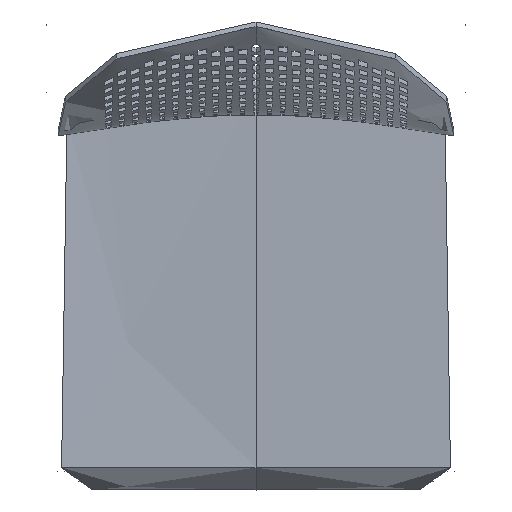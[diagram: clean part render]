
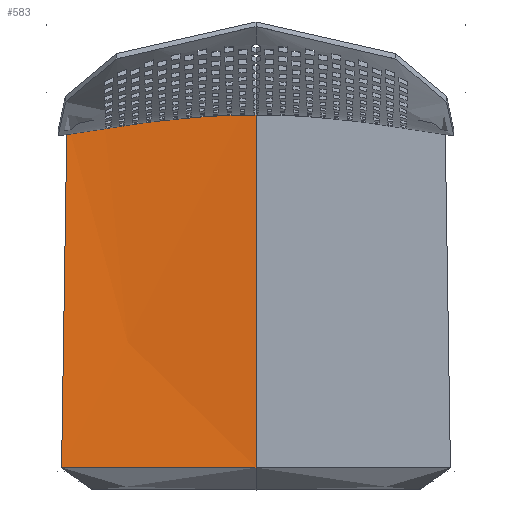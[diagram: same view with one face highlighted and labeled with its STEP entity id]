
A CAD part, top view. The second image highlights one B-rep face of the part: STEP entity #583.
In plain terms, the highlighted free-form (B-spline) face has degree [3, 3] with [4, 6] control points.
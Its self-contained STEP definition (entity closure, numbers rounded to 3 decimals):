
#583=ADVANCED_FACE('',(#1649),#19942,.T.);
#1649=FACE_OUTER_BOUND('',#2715,.T.);
#2715=EDGE_LOOP('',(#4396,#4397,#4398,#4399,#4400));
#4396=ORIENTED_EDGE('',*,*,#10608,.T.);
#4397=ORIENTED_EDGE('',*,*,#10598,.T.);
#4398=ORIENTED_EDGE('',*,*,#10617,.F.);
#4399=ORIENTED_EDGE('',*,*,#10593,.T.);
#4400=ORIENTED_EDGE('',*,*,#10618,.F.);
#10593=EDGE_CURVE('',#16894,#16896,#13811,.T.);
#10598=EDGE_CURVE('',#16899,#16900,#13816,.T.);
#10608=EDGE_CURVE('',#16905,#16899,#13826,.T.);
#10617=EDGE_CURVE('',#16894,#16900,#13835,.T.);
#10618=EDGE_CURVE('',#16905,#16896,#13657,.T.);
#13657=(
BOUNDED_CURVE()
B_SPLINE_CURVE(3,(#33264,#33265,#33266,#33267,#33268,#33269,#33270,#33271,
#33272,#33273,#33274,#33275,#33276,#33277,#33278,#33279,#33280,#33281,#33282,
#33283,#33284,#33285,#33286,#33287,#33288,#33289,#33290,#33291,#33292,#33293,
#33294),.UNSPECIFIED.,.F.,.F.)
B_SPLINE_CURVE_WITH_KNOTS((4,1,1,3,3,1,1,1,3,1,3,3,3,3,4),(2.851,
11.912,18.296,25.391,29.766,33.648,
35.997,37.781,43.025,45.325,48.241,
51.964,58.29,64.261,66.204),
 .UNSPECIFIED.)
CURVE()
GEOMETRIC_REPRESENTATION_ITEM()
RATIONAL_B_SPLINE_CURVE((1.,1.,1.,1.,1.,
1.,1.,1.,1.,1.,1.,1.,1.,1.,
1.,1.,1.,1.,1.,1.,1.,1.,1.,1.,1.,1.,1.,1.,
1.,1.,1.))
REPRESENTATION_ITEM('')
);
#13811=B_SPLINE_CURVE_WITH_KNOTS('',3,(#33003,#33004,#33005,#33006),
 .UNSPECIFIED.,.F.,.F.,(4,4),(-218.041,-38.983),
 .UNSPECIFIED.);
#13816=B_SPLINE_CURVE_WITH_KNOTS('',3,(#33035,#33036,#33037,#33038),
 .UNSPECIFIED.,.F.,.F.,(4,4),(0.,218.041),.UNSPECIFIED.);
#13826=B_SPLINE_CURVE_WITH_KNOTS('',1,(#33125,#33126),.UNSPECIFIED.,.F.,
 .F.,(2,2),(-388.74,0.),.UNSPECIFIED.);
#13835=B_SPLINE_CURVE_WITH_KNOTS('',3,(#33258,#33259,#33260,#33261,#33262,
#33263),.UNSPECIFIED.,.F.,.F.,(4,1,1,4),(-478.317,-332.608,
-186.899,-41.19),.UNSPECIFIED.);
#16894=VERTEX_POINT('',#30798);
#16896=VERTEX_POINT('',#30800);
#16899=VERTEX_POINT('',#30803);
#16900=VERTEX_POINT('',#30804);
#16905=VERTEX_POINT('',#30809);
#19942=B_SPLINE_SURFACE_WITH_KNOTS('',3,3,((#23471,#23472,#23473,#23474,
#23475,#23476),(#23477,#23478,#23479,#23480,#23481,#23482),(#23483,#23484,
#23485,#23486,#23487,#23488),(#23489,#23490,#23491,#23492,#23493,#23494)),
 .UNSPECIFIED.,.F.,.F.,.F.,(4,4),(4,1,1,4),(-0.436,218.041),
(41.19,186.899,332.608,478.754),
 .UNSPECIFIED.);
#23471=CARTESIAN_POINT('',(-218.048,-200.999,457.095));
#23472=CARTESIAN_POINT('',(-217.329,-154.605,456.325));
#23473=CARTESIAN_POINT('',(-215.891,-62.02,454.852));
#23474=CARTESIAN_POINT('',(-213.732,77.057,452.542));
#23475=CARTESIAN_POINT('',(-212.292,169.882,450.959));
#23476=CARTESIAN_POINT('',(-211.571,216.377,450.176));
#23477=CARTESIAN_POINT('',(-145.365,-200.999,455.087));
#23478=CARTESIAN_POINT('',(-144.886,-164.658,454.484));
#23479=CARTESIAN_POINT('',(-143.927,-58.489,442.29));
#23480=CARTESIAN_POINT('',(-142.488,90.792,440.302));
#23481=CARTESIAN_POINT('',(-141.528,180.446,446.036));
#23482=CARTESIAN_POINT('',(-141.047,223.036,447.407));
#23483=CARTESIAN_POINT('',(-72.683,-200.999,454.083));
#23484=CARTESIAN_POINT('',(-72.443,-169.684,453.563));
#23485=CARTESIAN_POINT('',(-71.964,-56.724,436.009));
#23486=CARTESIAN_POINT('',(-71.244,97.659,434.182));
#23487=CARTESIAN_POINT('',(-70.764,185.728,443.575));
#23488=CARTESIAN_POINT('',(-70.524,226.365,446.022));
#23489=CARTESIAN_POINT('',(0.,-200.999,454.083));
#23490=CARTESIAN_POINT('',(0.,-169.684,453.563));
#23491=CARTESIAN_POINT('',(0.,-56.724,436.009));
#23492=CARTESIAN_POINT('',(0.,97.659,434.182));
#23493=CARTESIAN_POINT('',(0.,185.728,443.575));
#23494=CARTESIAN_POINT('',(0.,226.365,446.022));
#30798=CARTESIAN_POINT('',(0.,226.,446.));
#30800=CARTESIAN_POINT('',(-173.403,219.256,448.809));
#30803=CARTESIAN_POINT('',(-217.613,-200.999,457.083));
#30804=CARTESIAN_POINT('',(0.,-200.999,454.083));
#30809=CARTESIAN_POINT('',(-211.594,187.641,450.636));
#33003=CARTESIAN_POINT('',(0.,226.,446.));
#33004=CARTESIAN_POINT('',(-57.801,226.,446.));
#33005=CARTESIAN_POINT('',(-115.602,223.752,446.936));
#33006=CARTESIAN_POINT('',(-173.403,219.256,448.809));
#33035=CARTESIAN_POINT('',(-217.613,-200.999,457.083));
#33036=CARTESIAN_POINT('',(-145.075,-200.999,455.083));
#33037=CARTESIAN_POINT('',(-72.538,-200.999,454.083));
#33038=CARTESIAN_POINT('',(0.,-200.999,454.083));
#33125=CARTESIAN_POINT('',(-211.594,187.641,450.636));
#33126=CARTESIAN_POINT('',(-217.613,-200.999,457.083));
#33258=CARTESIAN_POINT('',(0.,226.,446.));
#33259=CARTESIAN_POINT('',(0.,185.464,443.547));
#33260=CARTESIAN_POINT('',(0.,97.505,434.184));
#33261=CARTESIAN_POINT('',(0.,-56.724,436.009));
#33262=CARTESIAN_POINT('',(0.,-169.684,453.563));
#33263=CARTESIAN_POINT('',(0.,-200.999,454.083));
#33264=CARTESIAN_POINT('',(-211.594,187.641,450.636));
#33265=CARTESIAN_POINT('',(-208.679,186.894,450.478));
#33266=CARTESIAN_POINT('',(-203.606,186.011,450.189));
#33267=CARTESIAN_POINT('',(-196.091,185.782,449.749));
#33268=CARTESIAN_POINT('',(-191.609,186.251,449.489));
#33269=CARTESIAN_POINT('',(-189.278,186.675,449.358));
#33270=CARTESIAN_POINT('',(-187.842,186.937,449.277));
#33271=CARTESIAN_POINT('',(-186.416,187.277,449.198));
#33272=CARTESIAN_POINT('',(-185.031,187.75,449.123));
#33273=CARTESIAN_POINT('',(-183.804,188.17,449.057));
#33274=CARTESIAN_POINT('',(-181.884,189.018,448.957));
#33275=CARTESIAN_POINT('',(-179.674,190.557,448.852));
#33276=CARTESIAN_POINT('',(-177.367,192.702,448.75));
#33277=CARTESIAN_POINT('',(-176.067,194.709,448.706));
#33278=CARTESIAN_POINT('',(-175.373,196.318,448.689));
#33279=CARTESIAN_POINT('',(-175.068,197.024,448.682));
#33280=CARTESIAN_POINT('',(-174.486,198.671,448.671));
#33281=CARTESIAN_POINT('',(-174.139,200.38,448.674));
#33282=CARTESIAN_POINT('',(-173.994,201.341,448.677));
#33283=CARTESIAN_POINT('',(-173.808,202.569,448.682));
#33284=CARTESIAN_POINT('',(-173.711,203.807,448.69));
#33285=CARTESIAN_POINT('',(-173.639,205.044,448.699));
#33286=CARTESIAN_POINT('',(-173.514,207.147,448.715));
#33287=CARTESIAN_POINT('',(-173.478,209.253,448.733));
#33288=CARTESIAN_POINT('',(-173.454,211.358,448.75));
#33289=CARTESIAN_POINT('',(-173.431,213.344,448.767));
#33290=CARTESIAN_POINT('',(-173.424,215.331,448.782));
#33291=CARTESIAN_POINT('',(-173.414,217.317,448.796));
#33292=CARTESIAN_POINT('',(-173.411,217.963,448.801));
#33293=CARTESIAN_POINT('',(-173.407,218.61,448.805));
#33294=CARTESIAN_POINT('',(-173.403,219.256,448.809));
